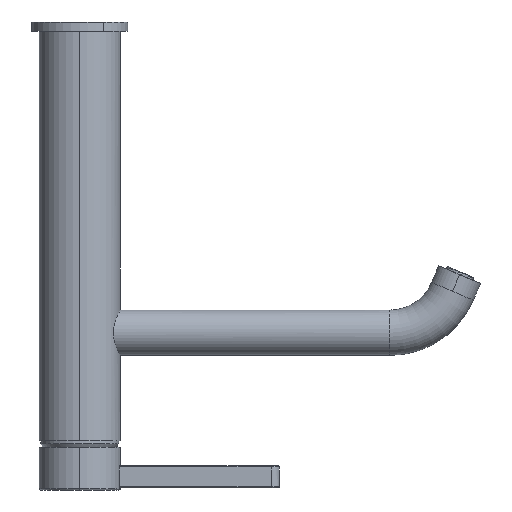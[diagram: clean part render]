
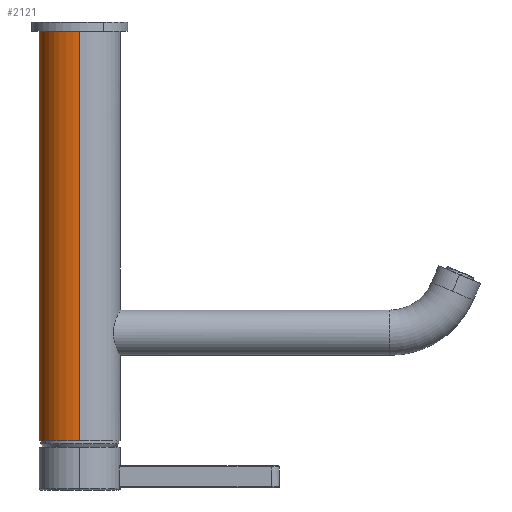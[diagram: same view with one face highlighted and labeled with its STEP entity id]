
A CAD part, left-side view. The second image highlights one B-rep face of the part: STEP entity #2121.
In plain terms, the highlighted cylindrical face has radius 22.35 mm (diameter 44.7 mm), a partial arc.
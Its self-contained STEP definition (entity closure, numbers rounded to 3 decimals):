
#353=DIRECTION('',(0.,0.,1.));
#354=VECTOR('',#353,225.5);
#355=CARTESIAN_POINT('',(-22.35,0.,-40.));
#356=LINE('',#355,#354);
#459=CARTESIAN_POINT('',(0.,0.,185.5));
#460=DIRECTION('',(0.,0.,-1.));
#461=DIRECTION('',(-1.,0.,0.));
#462=AXIS2_PLACEMENT_3D('',#459,#460,#461);
#479=DIRECTION('',(0.,0.,1.));
#480=VECTOR('',#479,225.5);
#481=CARTESIAN_POINT('',(22.35,0.,-40.));
#482=LINE('',#481,#480);
#483=CARTESIAN_POINT('',(0.,0.,-40.));
#484=DIRECTION('',(0.,0.,1.));
#485=DIRECTION('',(1.,0.,0.));
#486=AXIS2_PLACEMENT_3D('',#483,#484,#485);
#1470=CARTESIAN_POINT('',(-22.35,0.,185.5));
#1471=CARTESIAN_POINT('',(22.35,0.,185.5));
#1472=VERTEX_POINT('',#1470);
#1473=VERTEX_POINT('',#1471);
#1474=CARTESIAN_POINT('',(-22.35,0.,-40.));
#1475=VERTEX_POINT('',#1474);
#1476=CARTESIAN_POINT('',(22.35,0.,-40.));
#1477=VERTEX_POINT('',#1476);
#2109=CARTESIAN_POINT('',(0.,0.,186.));
#2110=DIRECTION('',(0.,0.,-1.));
#2111=DIRECTION('',(-1.,0.,0.));
#2112=AXIS2_PLACEMENT_3D('',#2109,#2110,#2111);
#2113=CYLINDRICAL_SURFACE('',#2112,22.35);
#2114=ORIENTED_EDGE('',*,*,#2097,.F.);
#2115=ORIENTED_EDGE('',*,*,#2082,.F.);
#2117=ORIENTED_EDGE('',*,*,#2116,.F.);
#2118=ORIENTED_EDGE('',*,*,#2078,.T.);
#2119=EDGE_LOOP('',(#2114,#2115,#2117,#2118));
#2120=FACE_OUTER_BOUND('',#2119,.F.);
#2121=ADVANCED_FACE('',(#2120),#2113,.T.);
#463=CIRCLE('',#462,22.35);
#487=CIRCLE('',#486,22.35);
#2078=EDGE_CURVE('',#1477,#1473,#482,.T.);
#2082=EDGE_CURVE('',#1475,#1472,#356,.T.);
#2097=EDGE_CURVE('',#1472,#1473,#463,.T.);
#2116=EDGE_CURVE('',#1477,#1475,#487,.T.);
